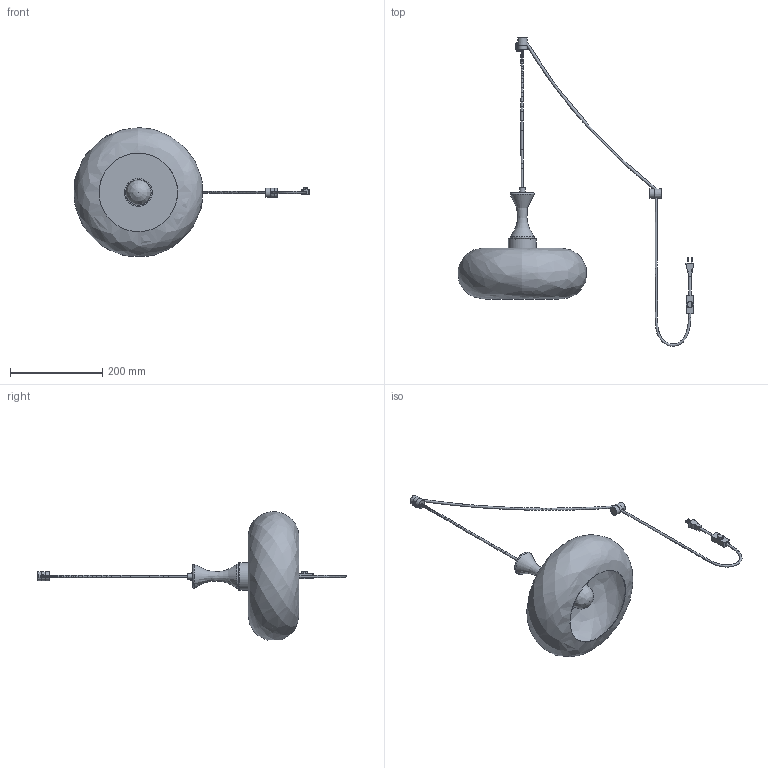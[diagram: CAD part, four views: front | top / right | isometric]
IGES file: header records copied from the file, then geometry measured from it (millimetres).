
Global section: file name: Mayon Plug In Pendant Lamp-Model B; native system: AutoCAD 2022 - 简体中文 (Simplified Chinese),62HAuto; preprocessor: desk Translation Framework DWG producer (atf_dwg_producer); organization: unknown; date: 20250324.164551; units: millimetre
Bounding box: 510.26 x 667.93 x 278.19 mm (x, y, z)
Volume: 438706.9 mm3; surface area: 398326.6 mm2
Topology: 20 solids, 20 shells, 235 faces, 651 edges, 463 vertices
Faces by surface type: bspline 235
